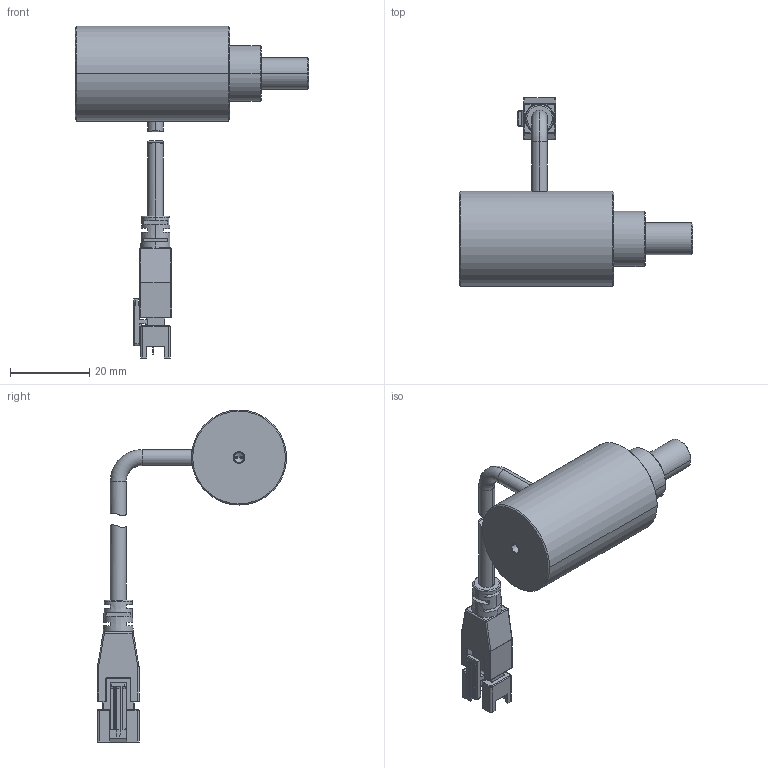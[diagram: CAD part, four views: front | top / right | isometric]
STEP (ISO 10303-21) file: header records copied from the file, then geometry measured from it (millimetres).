
FILE_DESCRIPTION (( 'STEP AP203' ), '1' );
FILE_NAME ('CST-SPL0859-X-潠眢3D芞.STEP', '2022-10-20T05:48:48', ( 'Windows 蚚誧' ), ( 'Organization' ), 'SwSTEP 2.0', 'SolidWorks 2018', '' );
FILE_SCHEMA (( 'CONFIG_CONTROL_DESIGN' ));
Length unit declared in the file: millimetre
Products named in the file (1): CST-SPL0859-X-潠眢3D芞
Bounding box: 59 x 47.73 x 83.8 mm (x, y, z)
Surface area: 7093.8 mm2 (no closed solid volume)
Topology: 0 solids, 4 shells, 264 faces, 661 edges, 412 vertices
Faces by surface type: plane 141, cylinder 81, cone 16, torus 10, bspline 8, sphere 8
Entity records: 8430 total; most frequent: CARTESIAN_POINT 2065, DIRECTION 1313, ORIENTED_EDGE 1306, EDGE_CURVE 655, AXIS2_PLACEMENT_3D 451, VERTEX_POINT 412, VECTOR 411, LINE 411
